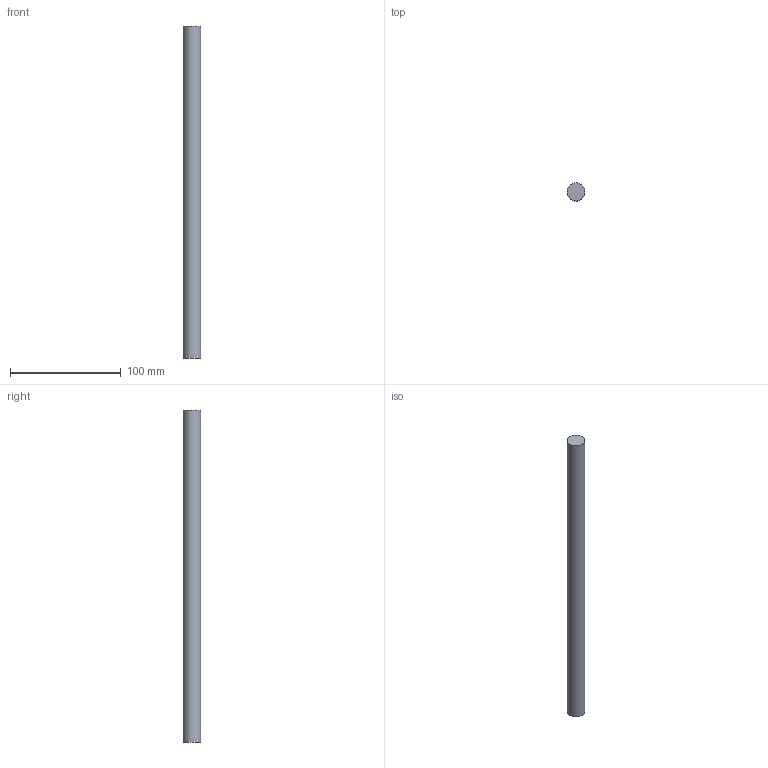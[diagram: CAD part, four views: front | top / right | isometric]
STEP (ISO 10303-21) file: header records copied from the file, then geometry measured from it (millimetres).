
FILE_DESCRIPTION(/* description */ (''),/* implementation_level */ '2;1');
FILE_NAME(/* name */ 'C:\Users\David\Desktop\stepFiles\Profilfuehrung\WF16x300.stp',/* time_stamp */ '2018-06-24T15:46:53+02:00',/* author */ ('David'),/* organization */ (''),/* preprocessor_version */ 'ST-DEVELOPER v17',/* originating_system */ 'Autodesk Inventor 2019',/* authorisation */ '');
FILE_SCHEMA (('AUTOMOTIVE_DESIGN { 1 0 10303 214 3 1 1 }'));
Length unit declared in the file: millimetre
Products named in the file (1): Wellenfuehrung
Bounding box: 16 x 16 x 300 mm (x, y, z)
Volume: 60318.6 mm3; surface area: 15481.8 mm2
Topology: 1 solids, 1 shells, 3 faces, 3 edges, 2 vertices
Faces by surface type: plane 2, cylinder 1
Full cylindrical faces by diameter (mm): 16 x1
Entity records: 98 total; most frequent: DIRECTION 13, CARTESIAN_POINT 9, ORIENTED_EDGE 6, AXIS2_PLACEMENT_3D 6, FACE_OUTER_BOUND 3, EDGE_LOOP 3, EDGE_CURVE 3, ADVANCED_FACE 3
